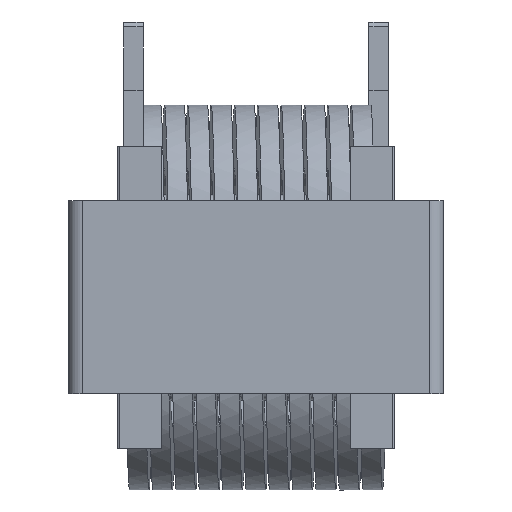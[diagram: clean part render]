
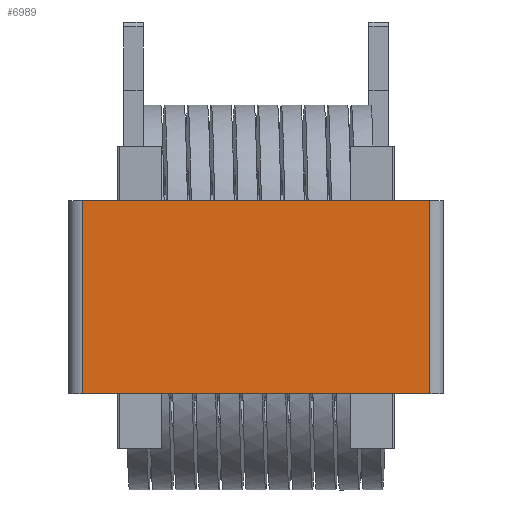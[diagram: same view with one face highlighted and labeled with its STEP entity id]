
A CAD part, front view. The second image highlights one B-rep face of the part: STEP entity #6989.
In plain terms, the highlighted planar face has unit normal (0, -1, 0).
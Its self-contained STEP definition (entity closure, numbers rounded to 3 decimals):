
#276 = CARTESIAN_POINT ( 'NONE',  ( -2.5, -0.38, -39.6 ) ) ;
#587 = AXIS2_PLACEMENT_3D ( 'NONE', #14970, #18670, #2094 ) ;
#2094 = DIRECTION ( 'NONE',  ( 0., 0., -1. ) ) ;
#2133 = VECTOR ( 'NONE', #15616, 1000. ) ;
#3007 = EDGE_CURVE ( 'NONE', #21928, #10036, #5593, .T. ) ;
#3431 = VERTEX_POINT ( 'NONE', #14428 ) ;
#4987 = LINE ( 'NONE', #276, #18581 ) ;
#5593 = LINE ( 'NONE', #21988, #20343 ) ;
#6966 = DIRECTION ( 'NONE',  ( 0., 0., 1. ) ) ;
#6989 = ADVANCED_FACE ( 'NONE', ( #14538 ), #13261, .T. ) ;
#7297 = ORIENTED_EDGE ( 'NONE', *, *, #18209, .F. ) ;
#9090 = DIRECTION ( 'NONE',  ( 1., 0., 0. ) ) ;
#9321 = VECTOR ( 'NONE', #9090, 1000. ) ;
#9374 = LINE ( 'NONE', #15460, #2133 ) ;
#9582 = DIRECTION ( 'NONE',  ( -1., 0., 0. ) ) ;
#10036 = VERTEX_POINT ( 'NONE', #17556 ) ;
#11533 = ORIENTED_EDGE ( 'NONE', *, *, #3007, .T. ) ;
#12178 = EDGE_CURVE ( 'NONE', #21928, #20842, #4987, .T. ) ;
#12441 = CARTESIAN_POINT ( 'NONE',  ( -73.7, -0.38, -39.6 ) ) ;
#12463 = EDGE_LOOP ( 'NONE', ( #19746, #11533, #7297, #23620 ) ) ;
#13261 = PLANE ( 'NONE',  #587 ) ;
#13369 = LINE ( 'NONE', #22329, #9321 ) ;
#14428 = CARTESIAN_POINT ( 'NONE',  ( -73.7, -0.38, 0. ) ) ;
#14538 = FACE_OUTER_BOUND ( 'NONE', #12463, .T. ) ;
#14970 = CARTESIAN_POINT ( 'NONE',  ( -2.5, -0.38, -151.157 ) ) ;
#15460 = CARTESIAN_POINT ( 'NONE',  ( -73.7, -0.38, -151.157 ) ) ;
#15616 = DIRECTION ( 'NONE',  ( 0., 0., 1. ) ) ;
#17267 = EDGE_CURVE ( 'NONE', #20842, #3431, #9374, .T. ) ;
#17556 = CARTESIAN_POINT ( 'NONE',  ( -2.5, -0.38, 0. ) ) ;
#18209 = EDGE_CURVE ( 'NONE', #3431, #10036, #13369, .T. ) ;
#18581 = VECTOR ( 'NONE', #9582, 1000. ) ;
#18670 = DIRECTION ( 'NONE',  ( 0., -1., 0. ) ) ;
#19746 = ORIENTED_EDGE ( 'NONE', *, *, #12178, .F. ) ;
#20343 = VECTOR ( 'NONE', #6966, 1000. ) ;
#20785 = CARTESIAN_POINT ( 'NONE',  ( -2.5, -0.38, -39.6 ) ) ;
#20842 = VERTEX_POINT ( 'NONE', #12441 ) ;
#21928 = VERTEX_POINT ( 'NONE', #20785 ) ;
#21988 = CARTESIAN_POINT ( 'NONE',  ( -2.5, -0.38, -151.157 ) ) ;
#22329 = CARTESIAN_POINT ( 'NONE',  ( -2.5, -0.38, 0. ) ) ;
#23620 = ORIENTED_EDGE ( 'NONE', *, *, #17267, .F. ) ;
